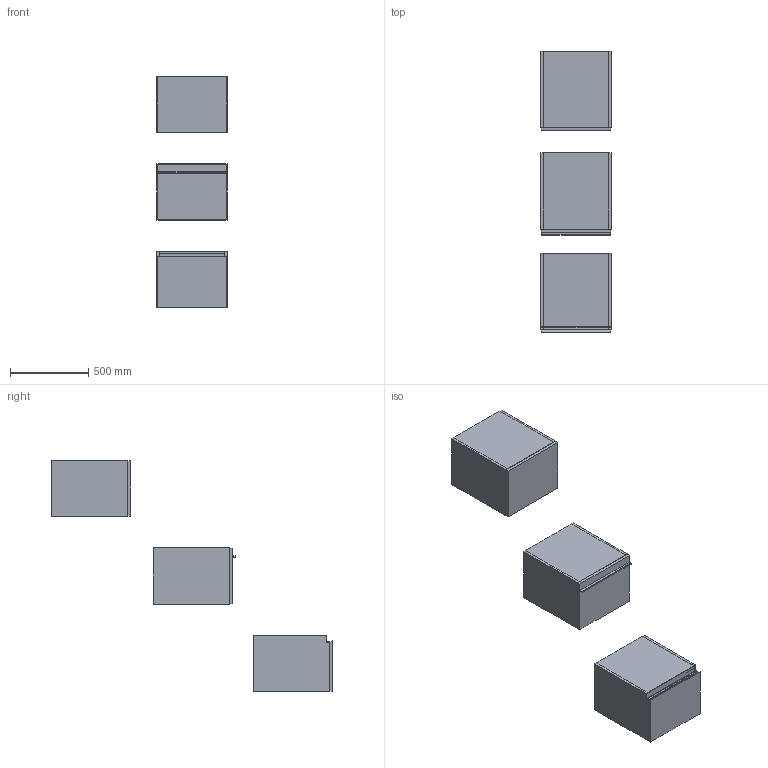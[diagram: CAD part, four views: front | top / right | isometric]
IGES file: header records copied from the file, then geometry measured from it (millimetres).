
Start section: Data from Parasolid IGES Translator 19.0.9, Copyright(c) 2006 Siemens PL M Software. All Rights Reserved.
Global section: file name: noorth-SI-H 36 D 51 W 45_8367.igs; native system: By Siemens PLM Incorporated; preprocessor: XPlus GENERIC/IGES 19.0.9; author: Noname; organization: Noname; date: 20200601.095134; units: metre
Bounding box: 450.01 x 1799.15 x 1480 mm (x, y, z)
Volume: 46318528.3 mm3; surface area: 6798392.5 mm2
Topology: 20 solids, 20 shells, 178 faces, 382 edges, 234 vertices
Faces by surface type: plane 134, extrusion 16, bspline 16, cylinder 12
